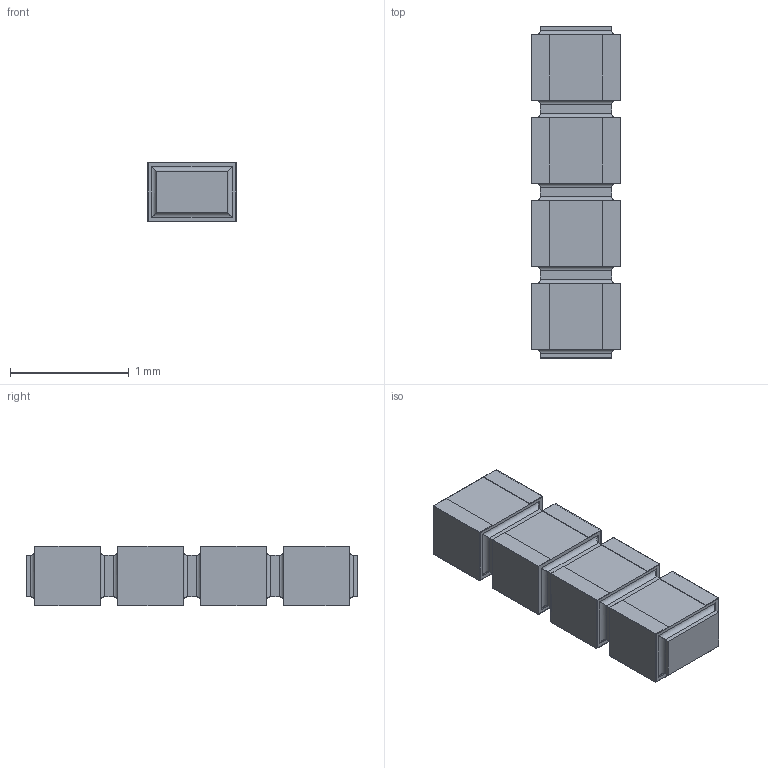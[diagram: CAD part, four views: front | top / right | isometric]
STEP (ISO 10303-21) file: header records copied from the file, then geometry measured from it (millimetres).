
FILE_DESCRIPTION(/* description */ (''),/* implementation_level */ '2;1');
FILE_NAME(/* name */ 'S:\DOCUMENT\AUTOCAD\3D_Modèles\10_3D-pour-VISHAY-COM\PRA\PRA073\PRA073-I2_à_I8\10_IGES\PRA073I4_B-or-N-or-G.stp',/* time_stamp */ '2017-12-21T10:46:50+01:00',/* author */ ('dparmentier'),/* organization */ ('unknown'),/* preprocessor_version */ 'ST-DEVELOPER v17',/* originating_system */ 'Autodesk Inventor 2018',/* authorisation */ '');
FILE_SCHEMA (('AUTOMOTIVE_DESIGN { 1 0 10303 214 3 1 1 }'));
Length unit declared in the file: millimetre
Products named in the file (1): PRA073I4_B-or-N-or-G
Bounding box: 0.75 x 2.8 x 0.5 mm (x, y, z)
Volume: 0.9 mm3; surface area: 15 mm2
Topology: 9 solids, 9 shells, 158 faces, 364 edges, 232 vertices
Faces by surface type: plane 126, cylinder 32
Entity records: 4409 total; most frequent: CARTESIAN_POINT 755, ORIENTED_EDGE 728, DIRECTION 714, EDGE_CURVE 364, LINE 332, VECTOR 332, VERTEX_POINT 232, AXIS2_PLACEMENT_3D 191
